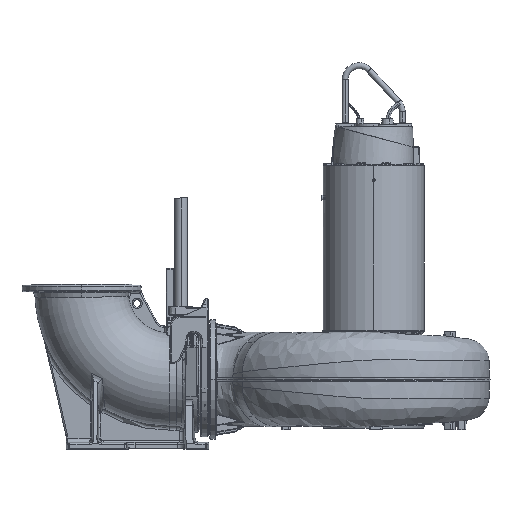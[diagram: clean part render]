
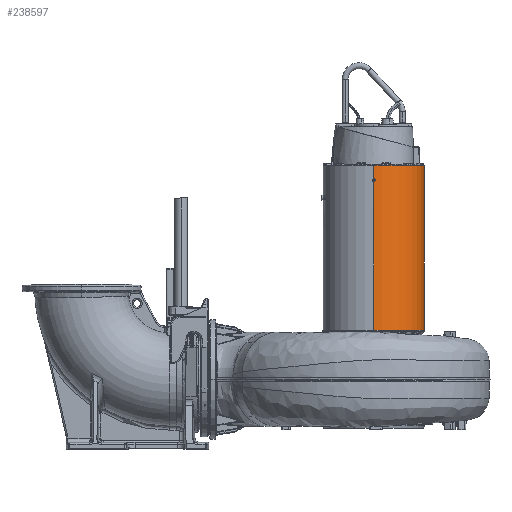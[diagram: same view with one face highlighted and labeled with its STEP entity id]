
A CAD part, top view. The second image highlights one B-rep face of the part: STEP entity #238597.
In plain terms, the highlighted cylindrical face has radius 344 mm (diameter 688 mm), a partial arc.
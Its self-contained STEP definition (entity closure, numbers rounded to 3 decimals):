
#4227 = VERTEX_POINT ( 'NONE', #32903 ) ;
#4938 = CARTESIAN_POINT ( 'NONE',  ( 1125., 1703.97, -344. ) ) ;
#11653 = CARTESIAN_POINT ( 'NONE',  ( 1134.5, 1687.515, -343.869 ) ) ;
#12035 = ORIENTED_EDGE ( 'NONE', *, *, #95034, .T. ) ;
#13828 = EDGE_CURVE ( 'NONE', #95532, #169503, #246596, .T. ) ;
#16381 = CARTESIAN_POINT ( 'NONE',  ( 1125., 1793., -344. ) ) ;
#17928 = CYLINDRICAL_SURFACE ( 'NONE', #35015, 344. ) ;
#19904 = LINE ( 'NONE', #190130, #193024 ) ;
#23070 = DIRECTION ( 'NONE',  ( 0., 1., 0. ) ) ;
#23078 = DIRECTION ( 'NONE',  ( 0., 1., 0. ) ) ;
#29506 = EDGE_CURVE ( 'NONE', #145719, #226610, #49559, .T. ) ;
#32903 = CARTESIAN_POINT ( 'NONE',  ( 1134.5, 1698.485, 343.869 ) ) ;
#35015 = AXIS2_PLACEMENT_3D ( 'NONE', #208412, #148496, #243396 ) ;
#38559 = EDGE_CURVE ( 'NONE', #139720, #145719, #80782, .T. ) ;
#38780 = CARTESIAN_POINT ( 'NONE',  ( 1125., 1703.97, 344. ) ) ;
#39125 = ORIENTED_EDGE ( 'NONE', *, *, #235231, .F. ) ;
#40415 = VERTEX_POINT ( 'NONE', #83538 ) ;
#45691 = LINE ( 'NONE', #154279, #170883 ) ;
#48392 = LINE ( 'NONE', #187666, #111033 ) ;
#49559 = LINE ( 'NONE', #287993, #104779 ) ;
#52022 = LINE ( 'NONE', #271383, #295268 ) ;
#54450 = ORIENTED_EDGE ( 'NONE', *, *, #75144, .F. ) ;
#62441 = CARTESIAN_POINT ( 'NONE',  ( 1128.167, 1702.141, 344. ) ) ;
#64287 = CARTESIAN_POINT ( 'NONE',  ( 1134.5, 1687.515, -343.869 ) ) ;
#65589 = AXIS2_PLACEMENT_3D ( 'NONE', #164062, #23078, #187674 ) ;
#68758 = DIRECTION ( 'NONE',  ( 0., 1., 0. ) ) ;
#75144 = EDGE_CURVE ( 'NONE', #40415, #166409, #48392, .T. ) ;
#80782 = CIRCLE ( 'NONE', #90544, 344. ) ;
#83538 = CARTESIAN_POINT ( 'NONE',  ( 1125., 1703.97, 344. ) ) ;
#83687 = EDGE_CURVE ( 'NONE', #161427, #255353, #190490, .T. ) ;
#86108 = CARTESIAN_POINT ( 'NONE',  ( 1134.5, 1698.485, 343.869 ) ) ;
#90544 = AXIS2_PLACEMENT_3D ( 'NONE', #209819, #68758, #233606 ) ;
#95034 = EDGE_CURVE ( 'NONE', #40415, #4227, #232895, .T. ) ;
#95532 = VERTEX_POINT ( 'NONE', #297219 ) ;
#97073 = VERTEX_POINT ( 'NONE', #16381 ) ;
#104779 = VECTOR ( 'NONE', #265336, 1000. ) ;
#107917 = CARTESIAN_POINT ( 'NONE',  ( 1134.5, 1687.515, 343.869 ) ) ;
#108830 = ORIENTED_EDGE ( 'NONE', *, *, #273185, .F. ) ;
#111033 = VECTOR ( 'NONE', #23070, 1000. ) ;
#111727 = CARTESIAN_POINT ( 'NONE',  ( 1125., 1682.03, -344. ) ) ;
#115072 = ORIENTED_EDGE ( 'NONE', *, *, #242435, .F. ) ;
#115131 =( BOUNDED_CURVE ( )  B_SPLINE_CURVE ( 3, ( #64287, #205331, #252892, #111727 ),
 .UNSPECIFIED., .F., .F. ) 
 B_SPLINE_CURVE_WITH_KNOTS ( ( 4, 4 ),
 ( 1.543, 1.571 ),
 .UNSPECIFIED. ) 
 CURVE ( )  GEOMETRIC_REPRESENTATION_ITEM ( )  RATIONAL_B_SPLINE_CURVE ( ( 1., 1., 1., 1. ) ) 
 REPRESENTATION_ITEM ( '' )  );
#120996 = ORIENTED_EDGE ( 'NONE', *, *, #38559, .T. ) ;
#132754 = EDGE_CURVE ( 'NONE', #4227, #95532, #52022, .T. ) ;
#139720 = VERTEX_POINT ( 'NONE', #250846 ) ;
#140296 = LINE ( 'NONE', #296653, #265881 ) ;
#145719 = VERTEX_POINT ( 'NONE', #203886 ) ;
#148496 = DIRECTION ( 'NONE',  ( 0., 1., 0. ) ) ;
#153274 = DIRECTION ( 'NONE',  ( 0., 1., 0. ) ) ;
#154279 = CARTESIAN_POINT ( 'NONE',  ( 1134.5, 1933.349, -343.869 ) ) ;
#160502 = CARTESIAN_POINT ( 'NONE',  ( 1125., 1682.03, 344. ) ) ;
#161427 = VERTEX_POINT ( 'NONE', #4938 ) ;
#164062 = CARTESIAN_POINT ( 'NONE',  ( 1125., 1793., 0. ) ) ;
#166409 = VERTEX_POINT ( 'NONE', #256629 ) ;
#167008 = CARTESIAN_POINT ( 'NONE',  ( 1128.167, 1702.141, -344. ) ) ;
#169503 = VERTEX_POINT ( 'NONE', #160502 ) ;
#170883 = VECTOR ( 'NONE', #201678, 1000. ) ;
#173092 = CARTESIAN_POINT ( 'NONE',  ( 1125., 1703.97, -344. ) ) ;
#176403 = CARTESIAN_POINT ( 'NONE',  ( 1125., 1682.03, -344. ) ) ;
#176755 = CARTESIAN_POINT ( 'NONE',  ( 1128.167, 1683.859, 344. ) ) ;
#179149 = EDGE_CURVE ( 'NONE', #255353, #276037, #45691, .T. ) ;
#183196 = ORIENTED_EDGE ( 'NONE', *, *, #13828, .T. ) ;
#185188 = EDGE_CURVE ( 'NONE', #161427, #97073, #19904, .T. ) ;
#187666 = CARTESIAN_POINT ( 'NONE',  ( 1125., 1933.349, 344. ) ) ;
#187674 = DIRECTION ( 'NONE',  ( 0., 0., -1. ) ) ;
#188893 = CARTESIAN_POINT ( 'NONE',  ( 1134.5, 1698.485, -343.869 ) ) ;
#190130 = CARTESIAN_POINT ( 'NONE',  ( 1125., 1933.349, -344. ) ) ;
#190490 =( BOUNDED_CURVE ( )  B_SPLINE_CURVE ( 3, ( #173092, #167008, #214478, #196770 ),
 .UNSPECIFIED., .F., .F. ) 
 B_SPLINE_CURVE_WITH_KNOTS ( ( 4, 4 ),
 ( 1.571, 1.598 ),
 .UNSPECIFIED. ) 
 CURVE ( )  GEOMETRIC_REPRESENTATION_ITEM ( )  RATIONAL_B_SPLINE_CURVE ( ( 1., 1., 1., 1. ) ) 
 REPRESENTATION_ITEM ( '' )  );
#193024 = VECTOR ( 'NONE', #284151, 1000. ) ;
#196770 = CARTESIAN_POINT ( 'NONE',  ( 1134.5, 1698.485, -343.869 ) ) ;
#201678 = DIRECTION ( 'NONE',  ( 0., -1., 0. ) ) ;
#203886 = CARTESIAN_POINT ( 'NONE',  ( 1125., 668., -344. ) ) ;
#205331 = CARTESIAN_POINT ( 'NONE',  ( 1131.334, 1685.687, -343.956 ) ) ;
#206589 = ORIENTED_EDGE ( 'NONE', *, *, #185188, .T. ) ;
#208412 = CARTESIAN_POINT ( 'NONE',  ( 1125., 1933.349, 0. ) ) ;
#208496 = ORIENTED_EDGE ( 'NONE', *, *, #83687, .F. ) ;
#209819 = CARTESIAN_POINT ( 'NONE',  ( 1125., 668., 0. ) ) ;
#214478 = CARTESIAN_POINT ( 'NONE',  ( 1131.334, 1700.313, -343.956 ) ) ;
#225271 = CARTESIAN_POINT ( 'NONE',  ( 1131.334, 1685.687, 343.956 ) ) ;
#226610 = VERTEX_POINT ( 'NONE', #176403 ) ;
#227254 = CARTESIAN_POINT ( 'NONE',  ( 1131.334, 1700.313, 343.956 ) ) ;
#232895 =( BOUNDED_CURVE ( )  B_SPLINE_CURVE ( 3, ( #38780, #62441, #227254, #86108 ),
 .UNSPECIFIED., .F., .T. ) 
 B_SPLINE_CURVE_WITH_KNOTS ( ( 4, 4 ),
 ( 1.571, 1.598 ),
 .UNSPECIFIED. ) 
 CURVE ( )  GEOMETRIC_REPRESENTATION_ITEM ( )  RATIONAL_B_SPLINE_CURVE ( ( 1., 1., 1., 1. ) ) 
 REPRESENTATION_ITEM ( '' )  );
#233576 = FACE_OUTER_BOUND ( 'NONE', #250729, .T. ) ;
#233606 = DIRECTION ( 'NONE',  ( 0., 0., -1. ) ) ;
#235231 = EDGE_CURVE ( 'NONE', #139720, #169503, #140296, .T. ) ;
#238476 = ORIENTED_EDGE ( 'NONE', *, *, #29506, .T. ) ;
#238597 = ADVANCED_FACE ( 'NONE', ( #233576 ), #17928, .T. ) ;
#242435 = EDGE_CURVE ( 'NONE', #276037, #226610, #115131, .T. ) ;
#243396 = DIRECTION ( 'NONE',  ( 0., 0., -1. ) ) ;
#245397 = ORIENTED_EDGE ( 'NONE', *, *, #179149, .F. ) ;
#246596 =( BOUNDED_CURVE ( )  B_SPLINE_CURVE ( 3, ( #107917, #225271, #176755, #272782 ),
 .UNSPECIFIED., .F., .T. ) 
 B_SPLINE_CURVE_WITH_KNOTS ( ( 4, 4 ),
 ( 1.543, 1.571 ),
 .UNSPECIFIED. ) 
 CURVE ( )  GEOMETRIC_REPRESENTATION_ITEM ( )  RATIONAL_B_SPLINE_CURVE ( ( 1., 1., 1., 1. ) ) 
 REPRESENTATION_ITEM ( '' )  );
#250729 = EDGE_LOOP ( 'NONE', ( #39125, #120996, #238476, #115072, #245397, #208496, #206589, #108830, #54450, #12035, #252274, #183196 ) ) ;
#250846 = CARTESIAN_POINT ( 'NONE',  ( 1125., 668., 344. ) ) ;
#252274 = ORIENTED_EDGE ( 'NONE', *, *, #132754, .T. ) ;
#252892 = CARTESIAN_POINT ( 'NONE',  ( 1128.167, 1683.859, -344. ) ) ;
#255353 = VERTEX_POINT ( 'NONE', #188893 ) ;
#256629 = CARTESIAN_POINT ( 'NONE',  ( 1125., 1793., 344. ) ) ;
#265336 = DIRECTION ( 'NONE',  ( 0., 1., 0. ) ) ;
#265881 = VECTOR ( 'NONE', #153274, 1000. ) ;
#271383 = CARTESIAN_POINT ( 'NONE',  ( 1134.5, 1933.349, 343.869 ) ) ;
#272782 = CARTESIAN_POINT ( 'NONE',  ( 1125., 1682.03, 344. ) ) ;
#273185 = EDGE_CURVE ( 'NONE', #166409, #97073, #273602, .T. ) ;
#273602 = CIRCLE ( 'NONE', #65589, 344. ) ;
#276037 = VERTEX_POINT ( 'NONE', #11653 ) ;
#284151 = DIRECTION ( 'NONE',  ( 0., 1., 0. ) ) ;
#287993 = CARTESIAN_POINT ( 'NONE',  ( 1125., 1933.349, -344. ) ) ;
#295268 = VECTOR ( 'NONE', #297043, 1000. ) ;
#296653 = CARTESIAN_POINT ( 'NONE',  ( 1125., 1933.349, 344. ) ) ;
#297043 = DIRECTION ( 'NONE',  ( 0., -1., 0. ) ) ;
#297219 = CARTESIAN_POINT ( 'NONE',  ( 1134.5, 1687.515, 343.869 ) ) ;
